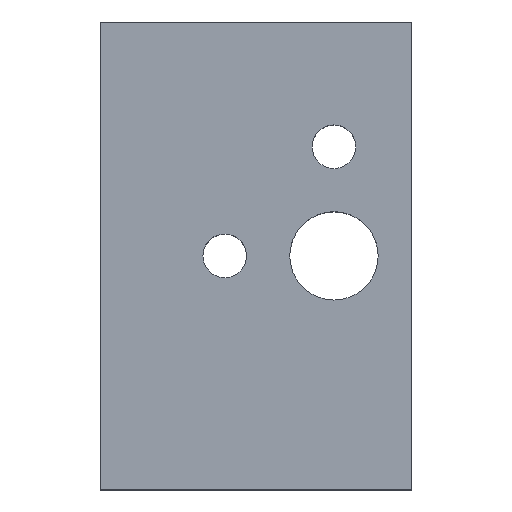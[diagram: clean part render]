
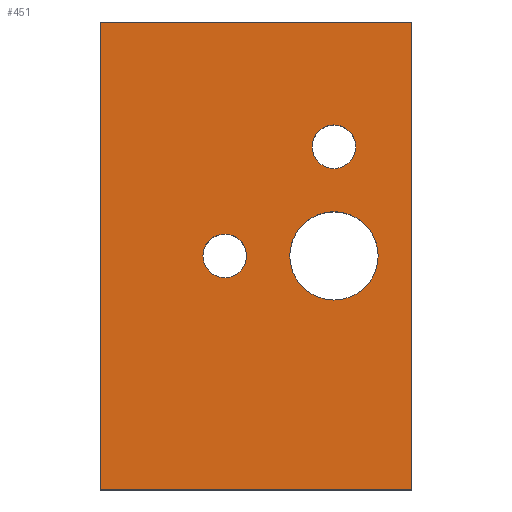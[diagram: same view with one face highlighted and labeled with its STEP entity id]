
A CAD part, top view. The second image highlights one B-rep face of the part: STEP entity #451.
In plain terms, the highlighted planar face has unit normal (0, 0, 1).
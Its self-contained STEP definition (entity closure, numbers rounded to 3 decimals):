
#9 = DIRECTION ( 'NONE',  ( 0., -1., 0. ) ) ;
#10 = AXIS2_PLACEMENT_3D ( 'NONE', #32, #19, #25 ) ;
#13 = CARTESIAN_POINT ( 'NONE',  ( 5.4, 10.5, 12. ) ) ;
#15 = DIRECTION ( 'NONE',  ( 1., 0., 0. ) ) ;
#16 = DIRECTION ( 'NONE',  ( 0., 0., 1. ) ) ;
#17 = CARTESIAN_POINT ( 'NONE',  ( 7.5, 10.5, 12. ) ) ;
#19 = DIRECTION ( 'NONE',  ( 0., 0., 1. ) ) ;
#25 = DIRECTION ( 'NONE',  ( 1., 0., 0. ) ) ;
#31 = CIRCLE ( 'NONE', #10, 2.1 ) ;
#32 = CARTESIAN_POINT ( 'NONE',  ( 7.5, 10.5, 12. ) ) ;
#38 = AXIS2_PLACEMENT_3D ( 'NONE', #17, #16, #15 ) ;
#39 = CARTESIAN_POINT ( 'NONE',  ( -0.9, 0., 12. ) ) ;
#52 = CIRCLE ( 'NONE', #38, 2.1 ) ;
#59 = CARTESIAN_POINT ( 'NONE',  ( 3.25, 0., 12. ) ) ;
#62 = AXIS2_PLACEMENT_3D ( 'NONE', #70, #69, #68 ) ;
#65 = CIRCLE ( 'NONE', #62, 4.25 ) ;
#68 = DIRECTION ( 'NONE',  ( 1., 0., 0. ) ) ;
#69 = DIRECTION ( 'NONE',  ( 0., 0., 1. ) ) ;
#70 = CARTESIAN_POINT ( 'NONE',  ( 7.5, 0., 12. ) ) ;
#76 = CARTESIAN_POINT ( 'NONE',  ( 9.6, 10.5, 12. ) ) ;
#82 = CARTESIAN_POINT ( 'NONE',  ( -5.1, 0., 12. ) ) ;
#91 = CARTESIAN_POINT ( 'NONE',  ( -15., 22.5, 12. ) ) ;
#103 = CARTESIAN_POINT ( 'NONE',  ( -15., -22.5, 12. ) ) ;
#104 = CIRCLE ( 'NONE', #125, 4.25 ) ;
#105 = FACE_OUTER_BOUND ( 'NONE', #440, .T. ) ;
#108 = DIRECTION ( 'NONE',  ( 1., 0., 0. ) ) ;
#109 = VECTOR ( 'NONE', #108, 1000. ) ;
#110 = LINE ( 'NONE', #103, #109 ) ;
#111 = DIRECTION ( 'NONE',  ( 0., 0., 1. ) ) ;
#113 = CARTESIAN_POINT ( 'NONE',  ( -3., 0., 12. ) ) ;
#114 = VECTOR ( 'NONE', #134, 1000. ) ;
#116 = FACE_BOUND ( 'NONE', #459, .T. ) ;
#117 = PLANE ( 'NONE',  #145 ) ;
#118 = CARTESIAN_POINT ( 'NONE',  ( 15., -22.5, 12. ) ) ;
#119 = DIRECTION ( 'NONE',  ( 1., 0., 0. ) ) ;
#120 = AXIS2_PLACEMENT_3D ( 'NONE', #113, #111, #119 ) ;
#121 = CIRCLE ( 'NONE', #120, 2.1 ) ;
#124 = LINE ( 'NONE', #135, #114 ) ;
#125 = AXIS2_PLACEMENT_3D ( 'NONE', #130, #129, #128 ) ;
#127 = FACE_BOUND ( 'NONE', #433, .T. ) ;
#128 = DIRECTION ( 'NONE',  ( 1., 0., 0. ) ) ;
#129 = DIRECTION ( 'NONE',  ( 0., 0., 1. ) ) ;
#130 = CARTESIAN_POINT ( 'NONE',  ( 7.5, 0., 12. ) ) ;
#131 = DIRECTION ( 'NONE',  ( 0., 1., 0. ) ) ;
#132 = VECTOR ( 'NONE', #131, 1000. ) ;
#134 = DIRECTION ( 'NONE',  ( -1., 0., 0. ) ) ;
#135 = CARTESIAN_POINT ( 'NONE',  ( -15., 22.5, 12. ) ) ;
#140 = CARTESIAN_POINT ( 'NONE',  ( 15., -22.5, 12. ) ) ;
#145 = AXIS2_PLACEMENT_3D ( 'NONE', #91, #152, #151 ) ;
#146 = LINE ( 'NONE', #118, #132 ) ;
#147 = FACE_BOUND ( 'NONE', #471, .T. ) ;
#151 = DIRECTION ( 'NONE',  ( -1., 0., 0. ) ) ;
#152 = DIRECTION ( 'NONE',  ( 0., 0., -1. ) ) ;
#173 = CARTESIAN_POINT ( 'NONE',  ( -15., -22.5, 12. ) ) ;
#175 = LINE ( 'NONE', #173, #180 ) ;
#176 = CARTESIAN_POINT ( 'NONE',  ( -15., 22.5, 12. ) ) ;
#178 = CARTESIAN_POINT ( 'NONE',  ( -15., -22.5, 12. ) ) ;
#180 = VECTOR ( 'NONE', #9, 1000. ) ;
#200 = CARTESIAN_POINT ( 'NONE',  ( 15., 22.5, 12. ) ) ;
#304 = CIRCLE ( 'NONE', #326, 2.1 ) ;
#322 = CARTESIAN_POINT ( 'NONE',  ( 11.75, 0., 12. ) ) ;
#323 = DIRECTION ( 'NONE',  ( 1., 0., 0. ) ) ;
#324 = DIRECTION ( 'NONE',  ( 0., 0., 1. ) ) ;
#325 = CARTESIAN_POINT ( 'NONE',  ( -3., 0., 12. ) ) ;
#326 = AXIS2_PLACEMENT_3D ( 'NONE', #325, #324, #323 ) ;
#353 = EDGE_CURVE ( 'NONE', #421, #390, #304, .T. ) ;
#357 = VERTEX_POINT ( 'NONE', #322 ) ;
#369 = VERTEX_POINT ( 'NONE', #59 ) ;
#379 = EDGE_CURVE ( 'NONE', #369, #357, #65, .T. ) ;
#380 = VERTEX_POINT ( 'NONE', #76 ) ;
#390 = VERTEX_POINT ( 'NONE', #39 ) ;
#397 = EDGE_CURVE ( 'NONE', #380, #419, #31, .T. ) ;
#400 = ORIENTED_EDGE ( 'NONE', *, *, #444, .F. ) ;
#402 = ORIENTED_EDGE ( 'NONE', *, *, #379, .F. ) ;
#407 = EDGE_CURVE ( 'NONE', #419, #380, #52, .T. ) ;
#419 = VERTEX_POINT ( 'NONE', #13 ) ;
#421 = VERTEX_POINT ( 'NONE', #82 ) ;
#431 = ORIENTED_EDGE ( 'NONE', *, *, #432, .T. ) ;
#432 = EDGE_CURVE ( 'NONE', #475, #472, #124, .T. ) ;
#433 = EDGE_LOOP ( 'NONE', ( #402, #400 ) ) ;
#434 = ORIENTED_EDGE ( 'NONE', *, *, #435, .T. ) ;
#435 = EDGE_CURVE ( 'NONE', #473, #458, #110, .T. ) ;
#440 = EDGE_LOOP ( 'NONE', ( #441, #434, #445, #431 ) ) ;
#441 = ORIENTED_EDGE ( 'NONE', *, *, #474, .T. ) ;
#442 = EDGE_CURVE ( 'NONE', #390, #421, #121, .T. ) ;
#443 = ORIENTED_EDGE ( 'NONE', *, *, #353, .F. ) ;
#444 = EDGE_CURVE ( 'NONE', #357, #369, #104, .T. ) ;
#445 = ORIENTED_EDGE ( 'NONE', *, *, #446, .T. ) ;
#446 = EDGE_CURVE ( 'NONE', #458, #475, #146, .T. ) ;
#451 = ADVANCED_FACE ( 'NONE', ( #147, #116, #105, #127 ), #117, .F. ) ;
#452 = ORIENTED_EDGE ( 'NONE', *, *, #442, .F. ) ;
#453 = ORIENTED_EDGE ( 'NONE', *, *, #407, .F. ) ;
#458 = VERTEX_POINT ( 'NONE', #140 ) ;
#459 = EDGE_LOOP ( 'NONE', ( #452, #443 ) ) ;
#471 = EDGE_LOOP ( 'NONE', ( #477, #453 ) ) ;
#472 = VERTEX_POINT ( 'NONE', #176 ) ;
#473 = VERTEX_POINT ( 'NONE', #178 ) ;
#474 = EDGE_CURVE ( 'NONE', #472, #473, #175, .T. ) ;
#475 = VERTEX_POINT ( 'NONE', #200 ) ;
#477 = ORIENTED_EDGE ( 'NONE', *, *, #397, .F. ) ;
